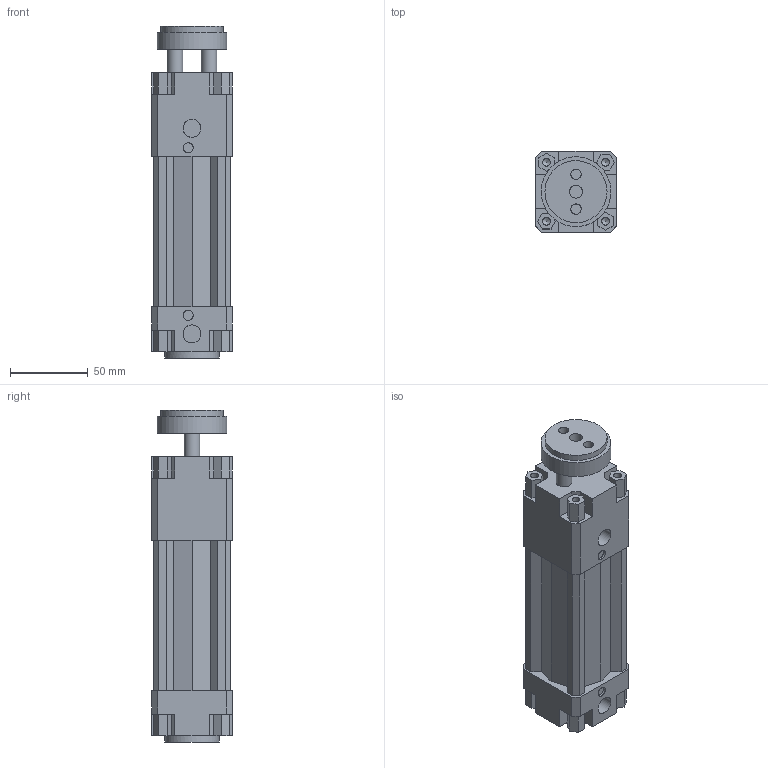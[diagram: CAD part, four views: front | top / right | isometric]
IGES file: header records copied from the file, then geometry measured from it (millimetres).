
Global section: file name: 134#_040_0050_01; native system: Autodesk Inventor 2014; preprocessor: unknown; author: A. Manieri; date: 20161006.164233; units: millimetre
Bounding box: 52 x 52 x 214 mm (x, y, z)
Volume: 365533.3 mm3; surface area: 90203 mm2
Topology: 2 solids, 2 shells, 180 faces, 492 edges, 336 vertices
Faces by surface type: bspline 180
